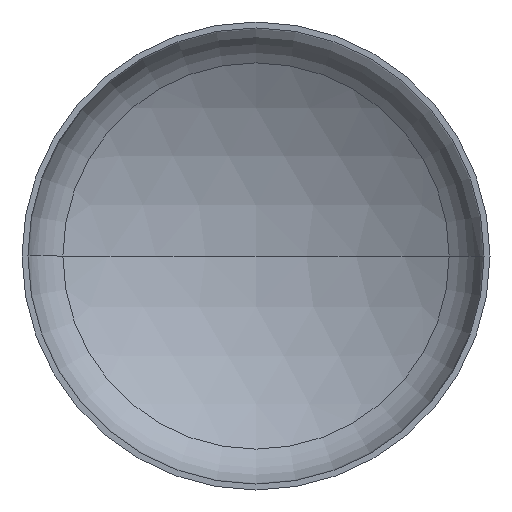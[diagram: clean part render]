
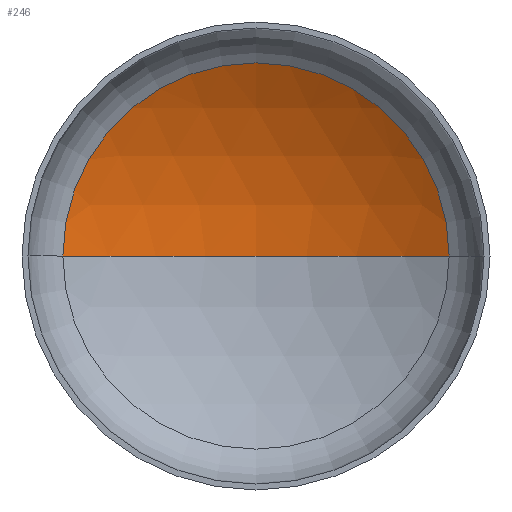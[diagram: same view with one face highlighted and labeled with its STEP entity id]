
A CAD part, front view. The second image highlights one B-rep face of the part: STEP entity #246.
In plain terms, the highlighted spherical face has radius 4800 mm.
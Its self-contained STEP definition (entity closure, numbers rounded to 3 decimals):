
#1 = EDGE_LOOP ( 'NONE', ( #268, #183, #14 ) ) ;
#7 = DIRECTION ( 'NONE',  ( 1., 0., 0. ) ) ;
#14 = ORIENTED_EDGE ( 'NONE', *, *, #201, .T. ) ;
#43 = CARTESIAN_POINT ( 'NONE',  ( 2476.181, 912.416, 0. ) ) ;
#56 = AXIS2_PLACEMENT_3D ( 'NONE', #107, #100, #113 ) ;
#84 = VERTEX_POINT ( 'NONE', #181 ) ;
#91 = AXIS2_PLACEMENT_3D ( 'NONE', #410, #118, #130 ) ;
#93 = AXIS2_PLACEMENT_3D ( 'NONE', #235, #167, #338 ) ;
#100 = DIRECTION ( 'NONE',  ( 0., 0., -1. ) ) ;
#101 = AXIS2_PLACEMENT_3D ( 'NONE', #362, #390, #7 ) ;
#102 = FACE_OUTER_BOUND ( 'NONE', #1, .T. ) ;
#107 = CARTESIAN_POINT ( 'NONE',  ( 0., -3199.582, 0. ) ) ;
#113 = DIRECTION ( 'NONE',  ( -1., 0., 0. ) ) ;
#118 = DIRECTION ( 'NONE',  ( 0., 0., 1. ) ) ;
#130 = DIRECTION ( 'NONE',  ( 1., 0., 0. ) ) ;
#167 = DIRECTION ( 'NONE',  ( 0., 0., -1. ) ) ;
#181 = CARTESIAN_POINT ( 'NONE',  ( 0., 1600.418, 0. ) ) ;
#183 = ORIENTED_EDGE ( 'NONE', *, *, #206, .T. ) ;
#201 = EDGE_CURVE ( 'NONE', #230, #403, #221, .T. ) ;
#206 = EDGE_CURVE ( 'NONE', #84, #230, #294, .T. ) ;
#214 = EDGE_CURVE ( 'NONE', #84, #403, #411, .T. ) ;
#221 = CIRCLE ( 'NONE', #101, 2476.181 ) ;
#230 = VERTEX_POINT ( 'NONE', #43 ) ;
#235 = CARTESIAN_POINT ( 'NONE',  ( 0., -3199.582, 0. ) ) ;
#246 = ADVANCED_FACE ( 'NONE', ( #102 ), #278, .F. ) ;
#268 = ORIENTED_EDGE ( 'NONE', *, *, #214, .F. ) ;
#278 = SPHERICAL_SURFACE ( 'NONE', #56, 4800. ) ;
#294 = CIRCLE ( 'NONE', #93, 4800. ) ;
#296 = CARTESIAN_POINT ( 'NONE',  ( -2476.181, 912.416, 0. ) ) ;
#338 = DIRECTION ( 'NONE',  ( -1., 0., 0. ) ) ;
#362 = CARTESIAN_POINT ( 'NONE',  ( 0., 912.416, 0. ) ) ;
#390 = DIRECTION ( 'NONE',  ( 0., -1., 0. ) ) ;
#403 = VERTEX_POINT ( 'NONE', #296 ) ;
#410 = CARTESIAN_POINT ( 'NONE',  ( 0., -3199.582, 0. ) ) ;
#411 = CIRCLE ( 'NONE', #91, 4800. ) ;
